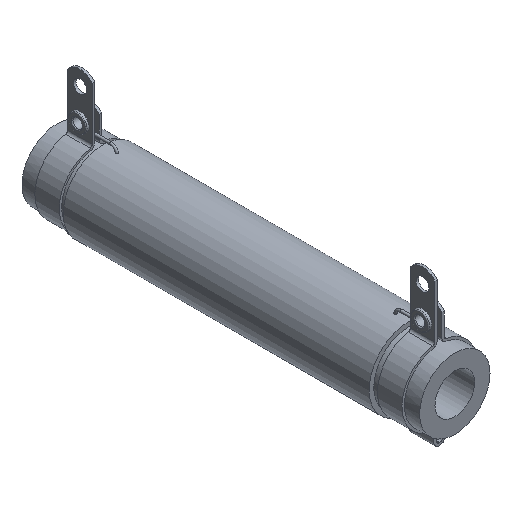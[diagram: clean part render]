
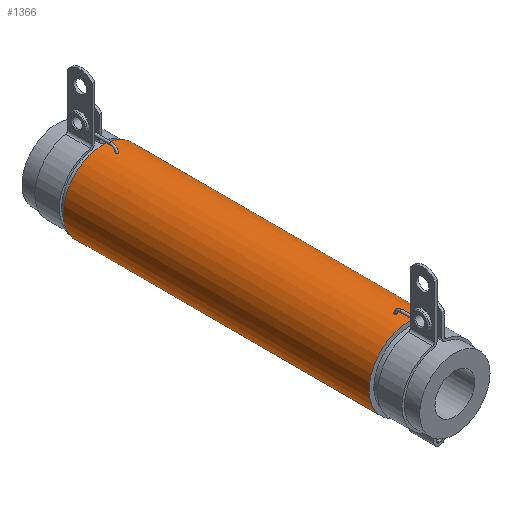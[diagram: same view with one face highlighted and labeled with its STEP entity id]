
A CAD part, isometric view. The second image highlights one B-rep face of the part: STEP entity #1366.
In plain terms, the highlighted cylindrical face has radius 13 mm (diameter 26 mm), a full revolution.
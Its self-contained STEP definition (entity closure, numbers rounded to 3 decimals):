
#147=B_SPLINE_CURVE_WITH_KNOTS($,3,(#2087,#2088,#2089,#2090,#2091,#2092,
#2093,#2094,#2095,#2096,#2097,#2098,#2099,#2100,#2101,#2102,#2103,#2104,
#2105,#2106,#2107,#2108,#2109,#2110,#2111,#2112,#2113,#2114,#2115,#2116,
#2117,#2118,#2119,#2120,#2121,#2122),.UNSPECIFIED.,.T.,.F.,(4,2,2,2,2,2,
2,2,2,2,2,2,2,2,2,2,2,4),(0.,0.016,0.031,0.047,
0.063,0.079,0.095,0.11,
0.126,0.141,0.157,0.172,
0.189,0.204,0.22,0.236,
0.245,0.254),.UNSPECIFIED.);
#148=B_SPLINE_CURVE_WITH_KNOTS($,3,(#2124,#2125,#2126,#2127,#2128,#2129,
#2130,#2131,#2132,#2133,#2134,#2135,#2136,#2137,#2138,#2139,#2140,#2141,
#2142,#2143,#2144,#2145,#2146,#2147,#2148,#2149,#2150,#2151,#2152,#2153,
#2154,#2155,#2156,#2157,#2158,#2159),.UNSPECIFIED.,.T.,.F.,(4,2,2,2,2,2,
2,2,2,2,2,2,2,2,2,2,2,4),(0.,0.016,0.031,0.047,
0.063,0.079,0.095,0.11,
0.126,0.141,0.157,0.172,
0.189,0.204,0.22,0.236,0.245,
0.254),.UNSPECIFIED.);
#177=FACE_BOUND($,#372,.T.);
#178=FACE_BOUND($,#373,.T.);
#179=FACE_BOUND($,#374,.T.);
#180=FACE_BOUND($,#375,.T.);
#251=CYLINDRICAL_SURFACE($,#1468,13.);
#372=EDGE_LOOP($,(#918));
#373=EDGE_LOOP($,(#919));
#374=EDGE_LOOP($,(#920));
#375=EDGE_LOOP($,(#921));
#511=CIRCLE($,#1469,13.);
#512=CIRCLE($,#1470,13.);
#604=VERTEX_POINT($,#2086);
#605=VERTEX_POINT($,#2123);
#606=VERTEX_POINT($,#2160);
#607=VERTEX_POINT($,#2162);
#736=EDGE_CURVE($,#604,#604,#147,.T.);
#737=EDGE_CURVE($,#605,#605,#148,.T.);
#738=EDGE_CURVE($,#606,#606,#511,.T.);
#739=EDGE_CURVE($,#607,#607,#512,.T.);
#918=ORIENTED_EDGE($,*,*,#736,.T.);
#919=ORIENTED_EDGE($,*,*,#737,.T.);
#920=ORIENTED_EDGE($,*,*,#738,.T.);
#921=ORIENTED_EDGE($,*,*,#739,.F.);
#1366=ADVANCED_FACE($,(#177,#178,#179,#180),#251,.T.);
#1468=AXIS2_PLACEMENT_3D($,#2085,#1662,#1663);
#1469=AXIS2_PLACEMENT_3D($,#2161,#1664,#1665);
#1470=AXIS2_PLACEMENT_3D($,#2163,#1666,#1667);
#1662=DIRECTION('center_axis',(0.,1.,0.));
#1663=DIRECTION('ref_axis',(0.757,0.,0.653));
#1664=DIRECTION('center_axis',(0.,-1.,0.));
#1665=DIRECTION('ref_axis',(0.757,0.,0.653));
#1666=DIRECTION('center_axis',(0.,-1.,0.));
#1667=DIRECTION('ref_axis',(0.757,0.,0.653));
#2085=CARTESIAN_POINT('Origin',(21.645,61.577,19.693));
#2086=CARTESIAN_POINT('',(21.645,66.458,32.693));
#2087=CARTESIAN_POINT('Ctrl Pts',(21.645,66.458,32.693));
#2088=CARTESIAN_POINT('Ctrl Pts',(21.697,66.458,32.693));
#2089=CARTESIAN_POINT('Ctrl Pts',(21.748,66.448,32.692));
#2090=CARTESIAN_POINT('Ctrl Pts',(21.845,66.409,32.691));
#2091=CARTESIAN_POINT('Ctrl Pts',(21.888,66.38,32.69));
#2092=CARTESIAN_POINT('Ctrl Pts',(21.962,66.307,32.689));
#2093=CARTESIAN_POINT('Ctrl Pts',(21.992,66.263,32.688));
#2094=CARTESIAN_POINT('Ctrl Pts',(22.033,66.167,32.687));
#2095=CARTESIAN_POINT('Ctrl Pts',(22.044,66.115,32.687));
#2096=CARTESIAN_POINT('Ctrl Pts',(22.046,66.009,32.687));
#2097=CARTESIAN_POINT('Ctrl Pts',(22.036,65.956,32.687));
#2098=CARTESIAN_POINT('Ctrl Pts',(21.998,65.857,32.688));
#2099=CARTESIAN_POINT('Ctrl Pts',(21.969,65.811,32.689));
#2100=CARTESIAN_POINT('Ctrl Pts',(21.895,65.734,32.69));
#2101=CARTESIAN_POINT('Ctrl Pts',(21.852,65.704,32.691));
#2102=CARTESIAN_POINT('Ctrl Pts',(21.756,65.661,32.692));
#2103=CARTESIAN_POINT('Ctrl Pts',(21.706,65.65,32.693));
#2104=CARTESIAN_POINT('Ctrl Pts',(21.603,65.648,32.693));
#2105=CARTESIAN_POINT('Ctrl Pts',(21.553,65.657,32.692));
#2106=CARTESIAN_POINT('Ctrl Pts',(21.457,65.693,32.691));
#2107=CARTESIAN_POINT('Ctrl Pts',(21.413,65.721,32.691));
#2108=CARTESIAN_POINT('Ctrl Pts',(21.337,65.792,32.689));
#2109=CARTESIAN_POINT('Ctrl Pts',(21.305,65.835,32.688));
#2110=CARTESIAN_POINT('Ctrl Pts',(21.261,65.932,32.687));
#2111=CARTESIAN_POINT('Ctrl Pts',(21.248,65.984,32.687));
#2112=CARTESIAN_POINT('Ctrl Pts',(21.243,66.091,32.686));
#2113=CARTESIAN_POINT('Ctrl Pts',(21.251,66.144,32.687));
#2114=CARTESIAN_POINT('Ctrl Pts',(21.287,66.243,32.688));
#2115=CARTESIAN_POINT('Ctrl Pts',(21.315,66.289,32.689));
#2116=CARTESIAN_POINT('Ctrl Pts',(21.385,66.366,32.69));
#2117=CARTESIAN_POINT('Ctrl Pts',(21.427,66.398,32.691));
#2118=CARTESIAN_POINT('Ctrl Pts',(21.501,66.433,32.692));
#2119=CARTESIAN_POINT('Ctrl Pts',(21.529,66.442,32.692));
#2120=CARTESIAN_POINT('Ctrl Pts',(21.586,66.455,32.693));
#2121=CARTESIAN_POINT('Ctrl Pts',(21.616,66.458,32.693));
#2122=CARTESIAN_POINT('Ctrl Pts',(21.645,66.458,32.693));
#2123=CARTESIAN_POINT('',(21.645,156.696,32.693));
#2124=CARTESIAN_POINT('Ctrl Pts',(21.645,156.696,32.693));
#2125=CARTESIAN_POINT('Ctrl Pts',(21.593,156.696,32.693));
#2126=CARTESIAN_POINT('Ctrl Pts',(21.542,156.706,32.692));
#2127=CARTESIAN_POINT('Ctrl Pts',(21.446,156.746,32.691));
#2128=CARTESIAN_POINT('Ctrl Pts',(21.402,156.774,32.69));
#2129=CARTESIAN_POINT('Ctrl Pts',(21.328,156.848,32.689));
#2130=CARTESIAN_POINT('Ctrl Pts',(21.298,156.891,32.688));
#2131=CARTESIAN_POINT('Ctrl Pts',(21.257,156.988,32.687));
#2132=CARTESIAN_POINT('Ctrl Pts',(21.246,157.04,32.687));
#2133=CARTESIAN_POINT('Ctrl Pts',(21.244,157.146,32.687));
#2134=CARTESIAN_POINT('Ctrl Pts',(21.254,157.198,32.687));
#2135=CARTESIAN_POINT('Ctrl Pts',(21.293,157.298,32.688));
#2136=CARTESIAN_POINT('Ctrl Pts',(21.322,157.343,32.689));
#2137=CARTESIAN_POINT('Ctrl Pts',(21.395,157.42,32.69));
#2138=CARTESIAN_POINT('Ctrl Pts',(21.439,157.451,32.691));
#2139=CARTESIAN_POINT('Ctrl Pts',(21.534,157.493,32.692));
#2140=CARTESIAN_POINT('Ctrl Pts',(21.585,157.504,32.693));
#2141=CARTESIAN_POINT('Ctrl Pts',(21.687,157.507,32.693));
#2142=CARTESIAN_POINT('Ctrl Pts',(21.738,157.498,32.692));
#2143=CARTESIAN_POINT('Ctrl Pts',(21.833,157.461,32.691));
#2144=CARTESIAN_POINT('Ctrl Pts',(21.878,157.434,32.691));
#2145=CARTESIAN_POINT('Ctrl Pts',(21.954,157.362,32.689));
#2146=CARTESIAN_POINT('Ctrl Pts',(21.985,157.319,32.688));
#2147=CARTESIAN_POINT('Ctrl Pts',(22.03,157.223,32.687));
#2148=CARTESIAN_POINT('Ctrl Pts',(22.043,157.17,32.687));
#2149=CARTESIAN_POINT('Ctrl Pts',(22.047,157.064,32.686));
#2150=CARTESIAN_POINT('Ctrl Pts',(22.039,157.01,32.687));
#2151=CARTESIAN_POINT('Ctrl Pts',(22.003,156.911,32.688));
#2152=CARTESIAN_POINT('Ctrl Pts',(21.976,156.866,32.689));
#2153=CARTESIAN_POINT('Ctrl Pts',(21.905,156.788,32.69));
#2154=CARTESIAN_POINT('Ctrl Pts',(21.863,156.757,32.691));
#2155=CARTESIAN_POINT('Ctrl Pts',(21.789,156.722,32.692));
#2156=CARTESIAN_POINT('Ctrl Pts',(21.761,156.712,32.692));
#2157=CARTESIAN_POINT('Ctrl Pts',(21.704,156.699,32.693));
#2158=CARTESIAN_POINT('Ctrl Pts',(21.675,156.696,32.693));
#2159=CARTESIAN_POINT('Ctrl Pts',(21.645,156.696,32.693));
#2160=CARTESIAN_POINT('',(11.805,161.577,11.198));
#2161=CARTESIAN_POINT('Origin',(21.645,161.577,19.693));
#2162=CARTESIAN_POINT('',(11.805,61.577,11.198));
#2163=CARTESIAN_POINT('Origin',(21.645,61.577,19.693));
